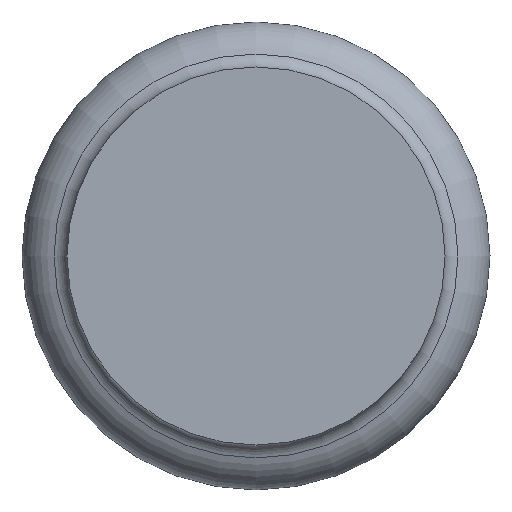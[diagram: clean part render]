
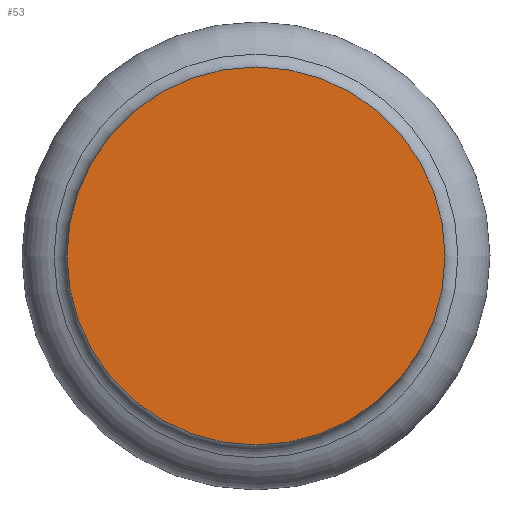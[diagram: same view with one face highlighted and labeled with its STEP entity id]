
A CAD part, front view. The second image highlights one B-rep face of the part: STEP entity #53.
In plain terms, the highlighted planar face has unit normal (0, -1, 0).
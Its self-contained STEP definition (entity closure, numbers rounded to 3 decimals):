
#53=ADVANCED_FACE('',(#78),#80,.T.);
#78=FACE_BOUND('',#79,.T.);
#79=EDGE_LOOP('',(#275));
#80=PLANE('',#81);
#81=AXIS2_PLACEMENT_3D('',#82,#83,#84);
#82=CARTESIAN_POINT('',(0.,0.,0.));
#83=DIRECTION('',(0.,-1.,0.));
#84=DIRECTION('',(0.,0.,1.));
#275=ORIENTED_EDGE('',*,*,#375,.F.);
#375=EDGE_CURVE('',#425,#425,#426,.T.);
#425=VERTEX_POINT('',#513);
#426=CIRCLE('',#514,10.5);
#513=CARTESIAN_POINT('',(0.,0.,10.5));
#514=AXIS2_PLACEMENT_3D('',#515,#516,#517);
#515=CARTESIAN_POINT('',(0.,0.,0.));
#516=DIRECTION('',(0.,1.,0.));
#517=DIRECTION('',(0.,0.,1.));
